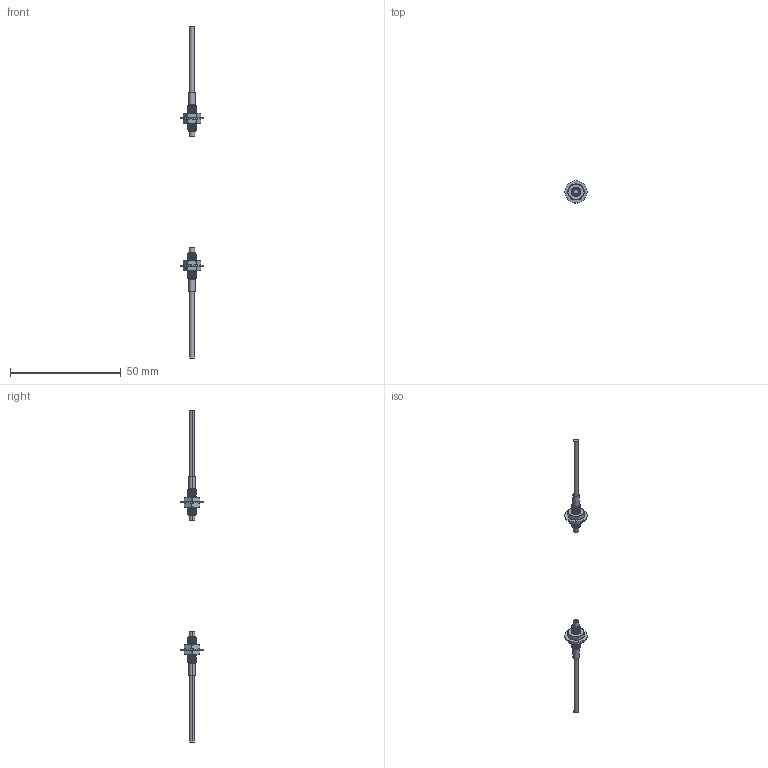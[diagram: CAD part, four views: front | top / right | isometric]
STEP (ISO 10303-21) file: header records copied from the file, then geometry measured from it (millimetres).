
FILE_DESCRIPTION (( 'STEP AP203' ), '1' );
FILE_NAME ('FDT-410.STEP', '2020-11-04T10:10:08', ( '' ), ( '' ), 'SwSTEP 2.0', 'SolidWorks 2020', '' );
FILE_SCHEMA (( 'CONFIG_CONTROL_DESIGN' ));
Length unit declared in the file: millimetre
Products named in the file (7): FDT-410_T; FDT-410; M4蹟譫x2x2x2; M4菜え____; FDT-410_R
Assembly tree (10 placements, depth 3):
  FDT-410
    FDT-410_T
      FDT-410_T
      M4菜え____
      M4蹟譫x2x2x2  x2
    FDT-410_R
      FDT-410_R
      M4菜え____
      M4蹟譫x2x2x2  x2
Bounding box: 10 x 10 x 150 mm (x, y, z)
Volume: 881.5 mm3; surface area: 1878.3 mm2
Topology: 8 solids, 8 shells, 224 faces, 572 edges, 374 vertices
Faces by surface type: cylinder 110, plane 50, cone 30, bspline 18, torus 16
Entity records: 11850 total; most frequent: CARTESIAN_POINT 7885, ORIENTED_EDGE 754, DIRECTION 570, EDGE_CURVE 377, VERTEX_POINT 249, AXIS2_PLACEMENT_3D 229, EDGE_LOOP 160, ADVANCED_FACE 146
